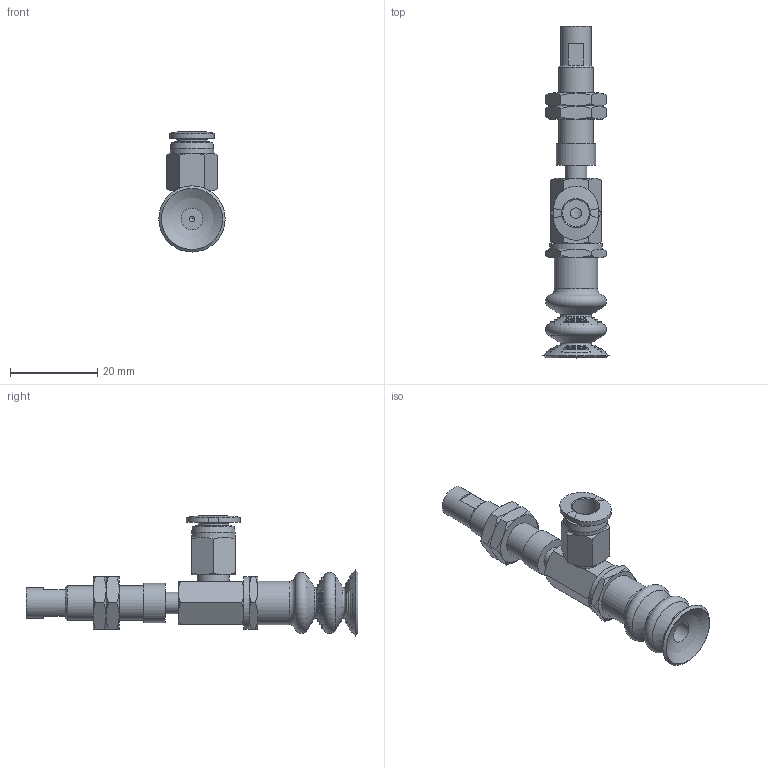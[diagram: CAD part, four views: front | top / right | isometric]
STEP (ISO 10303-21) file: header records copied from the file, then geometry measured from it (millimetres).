
FILE_DESCRIPTION(('STEP AP203'),'1');
FILE_NAME('-O.stp','2025-04-03T06:50:26',(' '),(' '),'Spatial InterOp 3D',' ',' ');
FILE_SCHEMA(('CONFIG_CONTROL_DESIGN'));
Length unit declared in the file: millimetre
Products named in the file (8): BNABPCYS-15-3-※-O; Adapter_napc-15-T; Connector_s-15-3; Nut napc_s-15-3; NAPCTS-15-3-FBODY; NAPCTS-15-3-MBODY; BPCG-15-※; PC-C_06-M5
Assembly tree (8 placements, depth 2):
  BNABPCYS-15-3-※-O
    Adapter_napc-15-T
    Connector_s-15-3
    Nut napc_s-15-3  x2
    NAPCTS-15-3-FBODY
    NAPCTS-15-3-MBODY
    BPCG-15-※
    PC-C_06-M5
Bounding box: 15.2 x 76.2 x 27.58 mm (x, y, z)
Volume: 5462.9 mm3; surface area: 6718.8 mm2
Topology: 7 solids, 10 shells, 288 faces, 802 edges, 512 vertices
Faces by surface type: cone 84, plane 75, sphere 58, torus 36, cylinder 28, bspline 4, revolution 3
Full cylindrical faces by diameter (mm): 1.25 x1, 4 x2, 4.134 x3, 5 x9, 7 x2, 7.188 x2, 7.4 x1, 8 x1, 8.2 x1, 9 x1, 10 x2, 12 x1
Entity records: 8275 total; most frequent: CARTESIAN_POINT 2477, DIRECTION 1165, ORIENTED_EDGE 998, AXIS2_PLACEMENT_3D 549, EDGE_CURVE 501, EDGE_LOOP 376, VERTEX_POINT 352, CIRCLE 281
